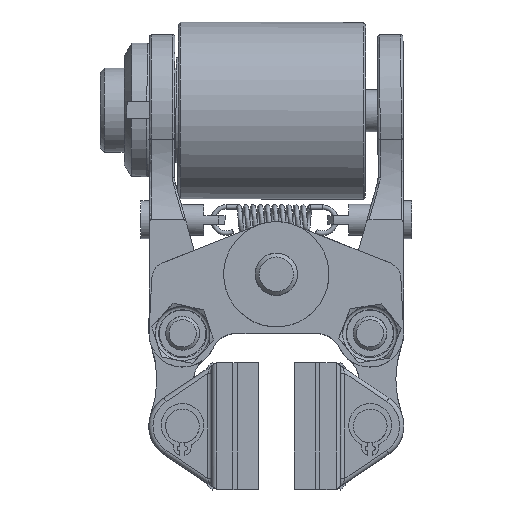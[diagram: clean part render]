
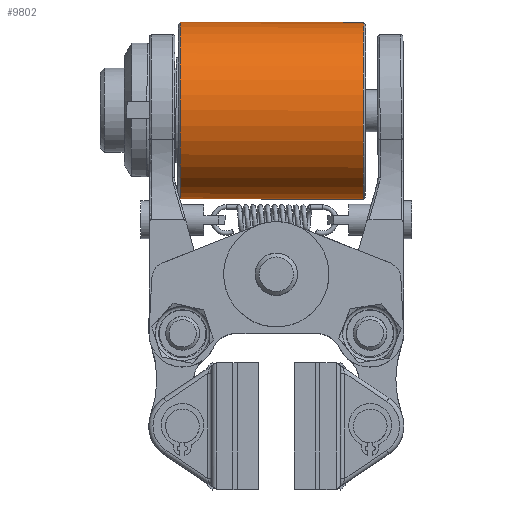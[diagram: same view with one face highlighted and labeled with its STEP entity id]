
A CAD part, top view. The second image highlights one B-rep face of the part: STEP entity #9802.
In plain terms, the highlighted cylindrical face has radius 21 mm (diameter 42 mm), a full revolution.
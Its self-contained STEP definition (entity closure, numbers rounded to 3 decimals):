
#263=B_SPLINE_CURVE_WITH_KNOTS('',3,(#14726,#14727,#14728,#14729,#14730,
#14731,#14732,#14733,#14734,#14735,#14736,#14737,#14738,#14739,#14740,#14741,
#14742,#14743),.UNSPECIFIED.,.F.,.F.,(4,2,2,2,2,2,2,2,4),(0.647,
0.809,0.971,1.133,1.295,1.456,
1.618,1.78,1.942),.UNSPECIFIED.);
#264=B_SPLINE_CURVE_WITH_KNOTS('',3,(#14746,#14747,#14748,#14749,#14750,
#14751,#14752,#14753,#14754,#14755,#14756,#14757,#14758,#14759,#14760,#14761,
#14762,#14763,#14764),.UNSPECIFIED.,.F.,.F.,(4,2,2,2,3,2,2,2,4),(1.942,
2.104,2.266,2.427,2.589,2.751,
2.913,3.075,3.236),.UNSPECIFIED.);
#411=CYLINDRICAL_SURFACE('',#10436,21.);
#605=FACE_OUTER_BOUND('',#1151,.T.);
#1151=EDGE_LOOP('',(#6240,#6241,#6242,#6243,#6244,#6245,#6246,#6247,#6248,
#6249));
#1745=LINE('',#14774,#2404);
#1746=LINE('',#14776,#2405);
#2404=VECTOR('',#11737,21.);
#2405=VECTOR('',#11738,21.);
#3099=CIRCLE('',#10434,21.);
#3100=CIRCLE('',#10435,21.);
#3101=CIRCLE('',#10437,21.);
#3102=CIRCLE('',#10438,21.);
#3692=VERTEX_POINT('',#14724);
#3693=VERTEX_POINT('',#14725);
#3695=VERTEX_POINT('',#14768);
#3696=VERTEX_POINT('',#14770);
#3697=VERTEX_POINT('',#14775);
#3698=VERTEX_POINT('',#14777);
#4685=EDGE_CURVE('',#3692,#3693,#263,.T.);
#4688=EDGE_CURVE('',#3693,#3692,#264,.T.);
#4691=EDGE_CURVE('',#3695,#3696,#3099,.T.);
#4692=EDGE_CURVE('',#3696,#3695,#3100,.T.);
#4693=EDGE_CURVE('',#3696,#3692,#1745,.T.);
#4694=EDGE_CURVE('',#3693,#3697,#1746,.T.);
#4695=EDGE_CURVE('',#3698,#3697,#3101,.T.);
#4696=EDGE_CURVE('',#3697,#3698,#3102,.T.);
#6240=ORIENTED_EDGE('',*,*,#4691,.F.);
#6241=ORIENTED_EDGE('',*,*,#4692,.F.);
#6242=ORIENTED_EDGE('',*,*,#4693,.T.);
#6243=ORIENTED_EDGE('',*,*,#4685,.T.);
#6244=ORIENTED_EDGE('',*,*,#4694,.T.);
#6245=ORIENTED_EDGE('',*,*,#4695,.F.);
#6246=ORIENTED_EDGE('',*,*,#4696,.F.);
#6247=ORIENTED_EDGE('',*,*,#4694,.F.);
#6248=ORIENTED_EDGE('',*,*,#4688,.T.);
#6249=ORIENTED_EDGE('',*,*,#4693,.F.);
#9802=ADVANCED_FACE('',(#605),#411,.T.);
#10434=AXIS2_PLACEMENT_3D('',#14771,#11731,#11732);
#10435=AXIS2_PLACEMENT_3D('',#14772,#11733,#11734);
#10436=AXIS2_PLACEMENT_3D('',#14773,#11735,#11736);
#10437=AXIS2_PLACEMENT_3D('',#14778,#11739,#11740);
#10438=AXIS2_PLACEMENT_3D('',#14779,#11741,#11742);
#11731=DIRECTION('center_axis',(-1.,0.002,
0.));
#11732=DIRECTION('ref_axis',(0.,0.,
-1.));
#11733=DIRECTION('center_axis',(-1.,0.002,
0.));
#11734=DIRECTION('ref_axis',(0.,0.,
-1.));
#11735=DIRECTION('center_axis',(-1.,0.002,
0.));
#11736=DIRECTION('ref_axis',(0.,0.,
1.));
#11737=DIRECTION('',(1.,-0.002,0.));
#11738=DIRECTION('',(1.,-0.002,0.));
#11739=DIRECTION('center_axis',(1.,-0.002,
0.));
#11740=DIRECTION('ref_axis',(0.,0.,
-1.));
#11741=DIRECTION('center_axis',(1.,-0.002,
0.));
#11742=DIRECTION('ref_axis',(0.,0.,
-1.));
#14724=CARTESIAN_POINT('',(9.387,60.928,-1.5));
#14725=CARTESIAN_POINT('',(17.953,60.909,-1.5));
#14726=CARTESIAN_POINT('Ctrl Pts',(9.387,60.928,-1.5));
#14727=CARTESIAN_POINT('Ctrl Pts',(9.386,60.389,-1.5));
#14728=CARTESIAN_POINT('Ctrl Pts',(9.493,59.814,-1.477));
#14729=CARTESIAN_POINT('Ctrl Pts',(9.928,58.758,-1.394));
#14730=CARTESIAN_POINT('Ctrl Pts',(10.256,58.277,-1.336));
#14731=CARTESIAN_POINT('Ctrl Pts',(11.014,57.517,-1.225));
#14732=CARTESIAN_POINT('Ctrl Pts',(11.493,57.186,-1.166));
#14733=CARTESIAN_POINT('Ctrl Pts',(12.547,56.746,-1.082));
#14734=CARTESIAN_POINT('Ctrl Pts',(13.121,56.637,-1.059));
#14735=CARTESIAN_POINT('Ctrl Pts',(14.2,56.634,-1.059));
#14736=CARTESIAN_POINT('Ctrl Pts',(14.775,56.741,-1.082));
#14737=CARTESIAN_POINT('Ctrl Pts',(15.83,57.176,-1.166));
#14738=CARTESIAN_POINT('Ctrl Pts',(16.312,57.505,-1.225));
#14739=CARTESIAN_POINT('Ctrl Pts',(17.072,58.262,-1.336));
#14740=CARTESIAN_POINT('Ctrl Pts',(17.403,58.741,-1.394));
#14741=CARTESIAN_POINT('Ctrl Pts',(17.843,59.795,-1.477));
#14742=CARTESIAN_POINT('Ctrl Pts',(17.952,60.369,-1.5));
#14743=CARTESIAN_POINT('Ctrl Pts',(17.953,60.909,-1.5));
#14746=CARTESIAN_POINT('Ctrl Pts',(17.953,60.909,-1.5));
#14747=CARTESIAN_POINT('Ctrl Pts',(17.955,61.448,-1.5));
#14748=CARTESIAN_POINT('Ctrl Pts',(17.848,62.023,-1.477));
#14749=CARTESIAN_POINT('Ctrl Pts',(17.413,63.079,-1.394));
#14750=CARTESIAN_POINT('Ctrl Pts',(17.084,63.56,-1.336));
#14751=CARTESIAN_POINT('Ctrl Pts',(16.327,64.32,-1.225));
#14752=CARTESIAN_POINT('Ctrl Pts',(15.847,64.651,-1.166));
#14753=CARTESIAN_POINT('Ctrl Pts',(14.794,65.091,-1.082));
#14754=CARTESIAN_POINT('Ctrl Pts',(14.22,65.2,-1.059));
#14755=CARTESIAN_POINT('Ctrl Pts',(13.68,65.201,-1.059));
#14756=CARTESIAN_POINT('Ctrl Pts',(13.141,65.203,-1.059));
#14757=CARTESIAN_POINT('Ctrl Pts',(12.566,65.096,-1.082));
#14758=CARTESIAN_POINT('Ctrl Pts',(11.51,64.661,-1.166));
#14759=CARTESIAN_POINT('Ctrl Pts',(11.029,64.332,-1.225));
#14760=CARTESIAN_POINT('Ctrl Pts',(10.268,63.575,-1.336));
#14761=CARTESIAN_POINT('Ctrl Pts',(9.938,63.096,-1.394));
#14762=CARTESIAN_POINT('Ctrl Pts',(9.498,62.042,-1.477));
#14763=CARTESIAN_POINT('Ctrl Pts',(9.389,61.468,-1.5));
#14764=CARTESIAN_POINT('Ctrl Pts',(9.387,60.928,-1.5));
#14768=CARTESIAN_POINT('',(-22.83,61.001,40.5));
#14770=CARTESIAN_POINT('',(-22.83,61.001,-1.5));
#14771=CARTESIAN_POINT('Origin',(-22.83,61.001,19.5));
#14772=CARTESIAN_POINT('Origin',(-22.83,61.001,19.5));
#14773=CARTESIAN_POINT('Origin',(-1.08,60.952,19.5));
#14774=CARTESIAN_POINT('',(-1.08,60.952,-1.5));
#14775=CARTESIAN_POINT('',(20.67,60.903,-1.5));
#14776=CARTESIAN_POINT('',(-1.08,60.952,-1.5));
#14777=CARTESIAN_POINT('',(20.67,60.903,40.5));
#14778=CARTESIAN_POINT('Origin',(20.67,60.903,19.5));
#14779=CARTESIAN_POINT('Origin',(20.67,60.903,19.5));
